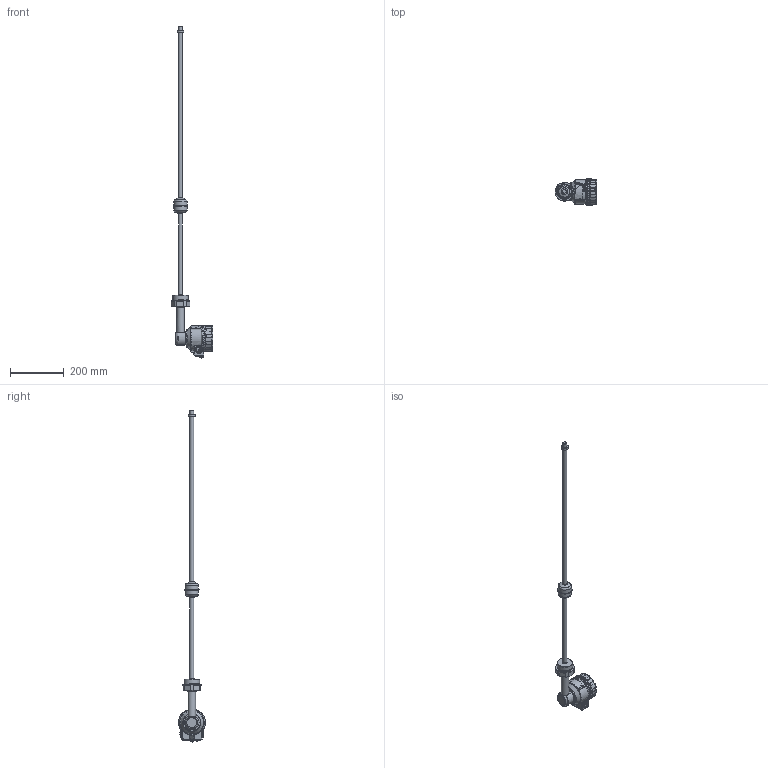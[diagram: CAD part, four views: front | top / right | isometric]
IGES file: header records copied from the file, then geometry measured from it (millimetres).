
Global section: file name: M_RK_Bszer_2col; native system: Autodesk Inventor 2015; preprocessor: unknown; author: aantal; date: 20150306.112127; units: millimetre
Bounding box: 156.39 x 100.01 x 1237.86 mm (x, y, z)
Volume: 1146471.2 mm3; surface area: 183009.7 mm2
Topology: 15 solids, 15 shells, 1231 faces, 3113 edges, 1962 vertices
Faces by surface type: bspline 1231
